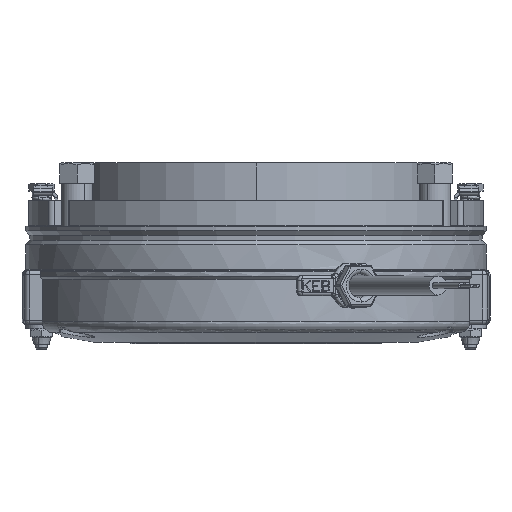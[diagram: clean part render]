
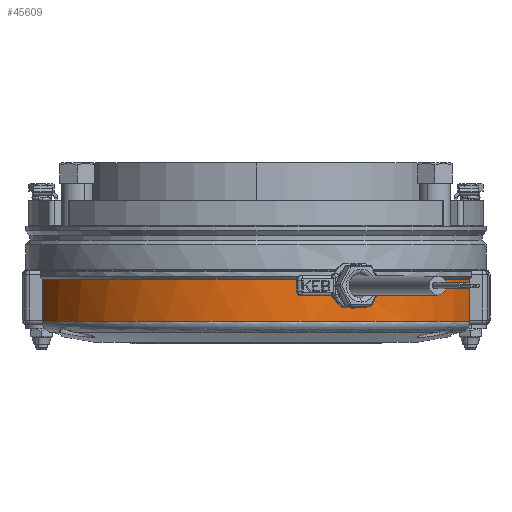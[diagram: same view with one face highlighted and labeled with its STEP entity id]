
A CAD part, front view. The second image highlights one B-rep face of the part: STEP entity #45609.
In plain terms, the highlighted cylindrical face has radius 72.5 mm (diameter 145 mm), a partial arc.
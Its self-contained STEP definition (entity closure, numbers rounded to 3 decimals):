
#81 = EDGE_LOOP ( 'NONE', ( #41554, #32728, #33471, #19970, #19673, #56891, #5647 ) ) ;
#831 = VERTEX_POINT ( 'NONE', #46687 ) ;
#1503 = CARTESIAN_POINT ( 'NONE',  ( -68.286, -24.357, 7.052 ) ) ;
#2259 = DIRECTION ( 'NONE',  ( 0., 0., 1. ) ) ;
#2330 = CIRCLE ( 'NONE', #50974, 72.5 ) ;
#3488 = CARTESIAN_POINT ( 'NONE',  ( 34.916, -63.539, 13.186 ) ) ;
#4097 = CARTESIAN_POINT ( 'NONE',  ( 35.427, -63.255, 13.777 ) ) ;
#4328 = CARTESIAN_POINT ( 'NONE',  ( 29.387, -66.277, 11.478 ) ) ;
#5558 = VERTEX_POINT ( 'NONE', #30864 ) ;
#5647 = ORIENTED_EDGE ( 'NONE', *, *, #6657, .F. ) ;
#6657 = EDGE_CURVE ( 'NONE', #44716, #831, #32044, .T. ) ;
#7181 = CARTESIAN_POINT ( 'NONE',  ( 25.685, -67.798, 13.776 ) ) ;
#7860 = CARTESIAN_POINT ( 'NONE',  ( 36.549, -62.614, 15.891 ) ) ;
#8096 = CARTESIAN_POINT ( 'NONE',  ( 27.485, -67.089, 12.228 ) ) ;
#8161 = CARTESIAN_POINT ( 'NONE',  ( 35.092, -63.441, 13.374 ) ) ;
#8327 = EDGE_CURVE ( 'NONE', #29015, #5558, #52704, .T. ) ;
#11818 = CARTESIAN_POINT ( 'NONE',  ( 25.516, -67.862, 13.989 ) ) ;
#11879 = DIRECTION ( 'NONE',  ( 0., 0., -1. ) ) ;
#12194 = CARTESIAN_POINT ( 'NONE',  ( 36.827, -62.45, 16.946 ) ) ;
#12502 = CARTESIAN_POINT ( 'NONE',  ( 30.64, -65.707, 11.35 ) ) ;
#12813 = CARTESIAN_POINT ( 'NONE',  ( 34.35, -63.847, 12.67 ) ) ;
#12895 = AXIS2_PLACEMENT_3D ( 'NONE', #22147, #18406, #44662 ) ;
#13105 = CARTESIAN_POINT ( 'NONE',  ( 36.859, -62.432, 19.964 ) ) ;
#13348 = CARTESIAN_POINT ( 'NONE',  ( 30.391, -65.824, 11.35 ) ) ;
#13965 = VERTEX_POINT ( 'NONE', #1503 ) ;
#15088 = CARTESIAN_POINT ( 'NONE',  ( 68.286, -24.357, -2.187 ) ) ;
#15590 = CARTESIAN_POINT ( 'NONE',  ( 0., 0., 20.5 ) ) ;
#16859 = CIRCLE ( 'NONE', #12895, 72.5 ) ;
#17072 = CARTESIAN_POINT ( 'NONE',  ( 23.992, -68.415, 18.32 ) ) ;
#17382 = CARTESIAN_POINT ( 'NONE',  ( 26.83, -67.353, 12.67 ) ) ;
#17766 = CARTESIAN_POINT ( 'NONE',  ( 36.259, -62.782, 15.126 ) ) ;
#18406 = DIRECTION ( 'NONE',  ( 0., 0., -1. ) ) ;
#19673 = ORIENTED_EDGE ( 'NONE', *, *, #8327, .T. ) ;
#19970 = ORIENTED_EDGE ( 'NONE', *, *, #20957, .T. ) ;
#20957 = EDGE_CURVE ( 'NONE', #13965, #29015, #27019, .T. ) ;
#21581 = EDGE_CURVE ( 'NONE', #5558, #831, #2330, .T. ) ;
#21678 = CYLINDRICAL_SURFACE ( 'NONE', #58015, 72.5 ) ;
#21728 = CARTESIAN_POINT ( 'NONE',  ( 24.027, -68.403, 17.758 ) ) ;
#21802 = CARTESIAN_POINT ( 'NONE',  ( 31.634, -65.235, 11.43 ) ) ;
#22035 = CARTESIAN_POINT ( 'NONE',  ( 24.167, -68.353, 16.946 ) ) ;
#22147 = CARTESIAN_POINT ( 'NONE',  ( 0., 0., 20.5 ) ) ;
#22340 = CARTESIAN_POINT ( 'NONE',  ( 28.648, -66.602, 11.669 ) ) ;
#23546 = CARTESIAN_POINT ( 'NONE',  ( 28.172, -66.804, 11.856 ) ) ;
#23709 = CARTESIAN_POINT ( 'NONE',  ( 0., 0., 7.052 ) ) ;
#26067 = CARTESIAN_POINT ( 'NONE',  ( 24.281, -68.313, 20.5 ) ) ;
#26426 = DIRECTION ( 'NONE',  ( -1., 0., 0. ) ) ;
#26998 = CARTESIAN_POINT ( 'NONE',  ( 30.64, -65.707, 11.35 ) ) ;
#27019 = CIRCLE ( 'NONE', #53813, 72.5 ) ;
#27063 = CARTESIAN_POINT ( 'NONE',  ( 36.937, -62.385, 19.421 ) ) ;
#28153 = DIRECTION ( 'NONE',  ( -1., 0., 0. ) ) ;
#29015 = VERTEX_POINT ( 'NONE', #52918 ) ;
#29601 = DIRECTION ( 'NONE',  ( 1., 0., 0. ) ) ;
#30864 = CARTESIAN_POINT ( 'NONE',  ( 68.286, -24.357, 20.5 ) ) ;
#31043 = CARTESIAN_POINT ( 'NONE',  ( 24.133, -68.366, 19.964 ) ) ;
#31114 = CARTESIAN_POINT ( 'NONE',  ( 36.987, -62.356, 18.321 ) ) ;
#32044 = B_SPLINE_CURVE_WITH_KNOTS ( 'NONE', 3,
 ( #12502, #40447, #51029, #21802, #50727, #55679, #55377, #32342, #46703, #12813, #60059, #3488, #8161, #4097, #51323, #59735, #17766, #7860, #59426, #46400, #12194, #50409, #31114, #27063, #13105, #55065 ),
 .UNSPECIFIED., .F., .F.,
 ( 4, 2, 2, 2, 2, 2, 2, 2, 2, 2, 2, 2, 4 ),
 ( 0.013, 0.014, 0.015, 0.017, 0.017, 0.018, 0.019, 0.02, 0.021, 0.022, 0.023, 0.025, 0.026 ),
 .UNSPECIFIED. ) ;
#32342 = CARTESIAN_POINT ( 'NONE',  ( 33.727, -64.178, 12.228 ) ) ;
#32728 = ORIENTED_EDGE ( 'NONE', *, *, #55233, .T. ) ;
#33471 = ORIENTED_EDGE ( 'NONE', *, *, #59523, .T. ) ;
#35402 = CARTESIAN_POINT ( 'NONE',  ( 24.229, -68.332, 16.679 ) ) ;
#36023 = CARTESIAN_POINT ( 'NONE',  ( 26.043, -67.661, 13.374 ) ) ;
#36326 = CARTESIAN_POINT ( 'NONE',  ( 27.26, -67.181, 12.367 ) ) ;
#38649 = DIRECTION ( 'NONE',  ( 0., 0., 1. ) ) ;
#40447 = CARTESIAN_POINT ( 'NONE',  ( 30.889, -65.591, 11.35 ) ) ;
#40695 = CARTESIAN_POINT ( 'NONE',  ( 24.381, -68.278, 16.151 ) ) ;
#40961 = FACE_OUTER_BOUND ( 'NONE', #81, .T. ) ;
#41554 = ORIENTED_EDGE ( 'NONE', *, *, #59069, .F. ) ;
#43042 = VERTEX_POINT ( 'NONE', #46496 ) ;
#43828 = VECTOR ( 'NONE', #45855, 1000. ) ;
#44662 = DIRECTION ( 'NONE',  ( -1., 0., 0. ) ) ;
#44716 = VERTEX_POINT ( 'NONE', #57623 ) ;
#44880 = VERTEX_POINT ( 'NONE', #59460 ) ;
#45609 = ADVANCED_FACE ( 'NONE', ( #40961 ), #21678, .T. ) ;
#45706 = CARTESIAN_POINT ( 'NONE',  ( 24.047, -68.396, 19.421 ) ) ;
#45855 = DIRECTION ( 'NONE',  ( 0., 0., -1. ) ) ;
#46400 = CARTESIAN_POINT ( 'NONE',  ( 36.771, -62.483, 16.679 ) ) ;
#46496 = CARTESIAN_POINT ( 'NONE',  ( -68.286, -24.357, 20.5 ) ) ;
#46687 = CARTESIAN_POINT ( 'NONE',  ( 36.724, -62.511, 20.5 ) ) ;
#46703 = CARTESIAN_POINT ( 'NONE',  ( 33.942, -64.064, 12.368 ) ) ;
#47219 = CARTESIAN_POINT ( 'NONE',  ( 30.141, -65.938, 11.366 ) ) ;
#47429 = VECTOR ( 'NONE', #2259, 1000. ) ;
#49100 = CARTESIAN_POINT ( 'NONE',  ( 25.049, -68.036, 14.651 ) ) ;
#49714 = CARTESIAN_POINT ( 'NONE',  ( 24.472, -68.245, 15.889 ) ) ;
#50409 = CARTESIAN_POINT ( 'NONE',  ( 36.956, -62.374, 17.759 ) ) ;
#50727 = CARTESIAN_POINT ( 'NONE',  ( 31.882, -65.114, 11.478 ) ) ;
#50813 = LINE ( 'NONE', #55758, #43828 ) ;
#50974 = AXIS2_PLACEMENT_3D ( 'NONE', #15590, #11879, #26426 ) ;
#51029 = CARTESIAN_POINT ( 'NONE',  ( 31.138, -65.473, 11.366 ) ) ;
#51323 = CARTESIAN_POINT ( 'NONE',  ( 35.584, -63.167, 13.99 ) ) ;
#52101 = DIRECTION ( 'NONE',  ( 0., 0., -1. ) ) ;
#52704 = LINE ( 'NONE', #15088, #47429 ) ;
#52918 = CARTESIAN_POINT ( 'NONE',  ( 68.286, -24.357, 7.052 ) ) ;
#53813 = AXIS2_PLACEMENT_3D ( 'NONE', #23709, #38649, #29601 ) ;
#54360 = CARTESIAN_POINT ( 'NONE',  ( 24.788, -68.131, 15.126 ) ) ;
#54997 = CARTESIAN_POINT ( 'NONE',  ( 26.231, -67.589, 13.186 ) ) ;
#55065 = CARTESIAN_POINT ( 'NONE',  ( 36.724, -62.511, 20.5 ) ) ;
#55233 = EDGE_CURVE ( 'NONE', #44880, #43042, #16859, .T. ) ;
#55377 = CARTESIAN_POINT ( 'NONE',  ( 33.067, -64.522, 11.856 ) ) ;
#55679 = CARTESIAN_POINT ( 'NONE',  ( 32.606, -64.757, 11.669 ) ) ;
#55758 = CARTESIAN_POINT ( 'NONE',  ( -68.286, -24.357, -2.187 ) ) ;
#56533 = CARTESIAN_POINT ( 'NONE',  ( 29.64, -66.165, 11.43 ) ) ;
#56891 = ORIENTED_EDGE ( 'NONE', *, *, #21581, .T. ) ;
#57623 = CARTESIAN_POINT ( 'NONE',  ( 30.64, -65.707, 11.35 ) ) ;
#58015 = AXIS2_PLACEMENT_3D ( 'NONE', #61457, #52101, #28153 ) ;
#59069 = EDGE_CURVE ( 'NONE', #44880, #44716, #61377, .T. ) ;
#59426 = CARTESIAN_POINT ( 'NONE',  ( 36.632, -62.565, 16.152 ) ) ;
#59460 = CARTESIAN_POINT ( 'NONE',  ( 24.281, -68.313, 20.5 ) ) ;
#59523 = EDGE_CURVE ( 'NONE', #43042, #13965, #50813, .T. ) ;
#59735 = CARTESIAN_POINT ( 'NONE',  ( 36.017, -62.921, 14.651 ) ) ;
#59989 = CARTESIAN_POINT ( 'NONE',  ( 26.625, -67.435, 12.834 ) ) ;
#60059 = CARTESIAN_POINT ( 'NONE',  ( 34.544, -63.742, 12.834 ) ) ;
#61377 = B_SPLINE_CURVE_WITH_KNOTS ( 'NONE', 3,
 ( #26067, #31043, #45706, #17072, #21728, #22035, #35402, #40695, #49714, #54360, #49100, #11818, #7181, #36023, #54997, #59989, #17382, #36326, #8096, #23546, #22340, #4328, #56533, #47219, #13348, #26998 ),
 .UNSPECIFIED., .F., .F.,
 ( 4, 2, 2, 2, 2, 2, 2, 2, 2, 2, 2, 2, 4 ),
 ( 0., 0.002, 0.003, 0.004, 0.005, 0.007, 0.007, 0.008, 0.009, 0.01, 0.012, 0.012, 0.013 ),
 .UNSPECIFIED. ) ;
#61457 = CARTESIAN_POINT ( 'NONE',  ( 0., 0., -2.187 ) ) ;
